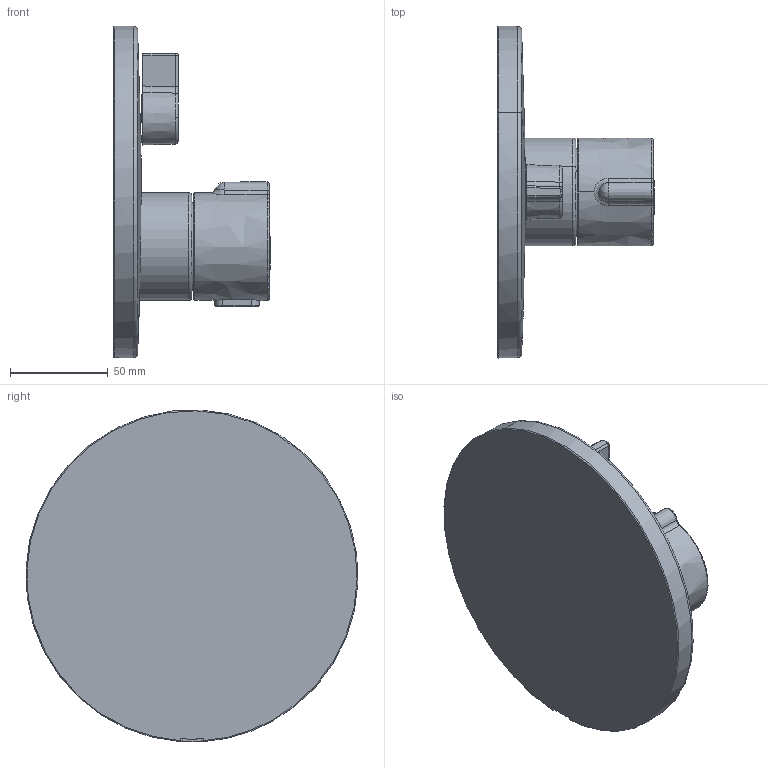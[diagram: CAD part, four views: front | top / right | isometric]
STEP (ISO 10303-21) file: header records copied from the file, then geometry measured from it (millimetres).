
FILE_DESCRIPTION((''),'2;1');
FILE_NAME('20004802','2017-08-29T',('SN986'),(''),'CREO PARAMETRIC BY PTC INC, 2016260','CREO PARAMETRIC BY PTC INC, 2016260','');
FILE_SCHEMA(('CONFIG_CONTROL_DESIGN'));
Length unit declared in the file: millimetre
Products named in the file (1): 20004802
Bounding box: 80 x 169.87 x 169.8 mm (x, y, z)
Volume: 465424.5 mm3; surface area: 69301.8 mm2
Topology: 2 solids, 2 shells, 277 faces, 680 edges, 405 vertices
Faces by surface type: bspline 107, cylinder 79, plane 38, torus 32, cone 14, sphere 7
Entity records: 15074 total; most frequent: CARTESIAN_POINT 9483, ORIENTED_EDGE 1342, DIRECTION 852, EDGE_CURVE 671, VERTEX_POINT 405, AXIS2_PLACEMENT_3D 359, B_SPLINE_CURVE_WITH_KNOTS 348, EDGE_LOOP 284
